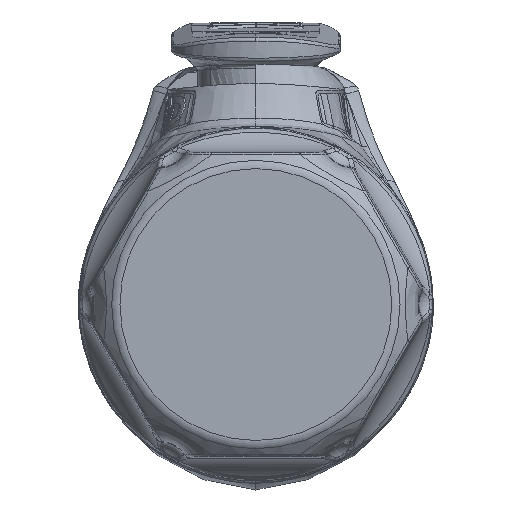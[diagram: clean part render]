
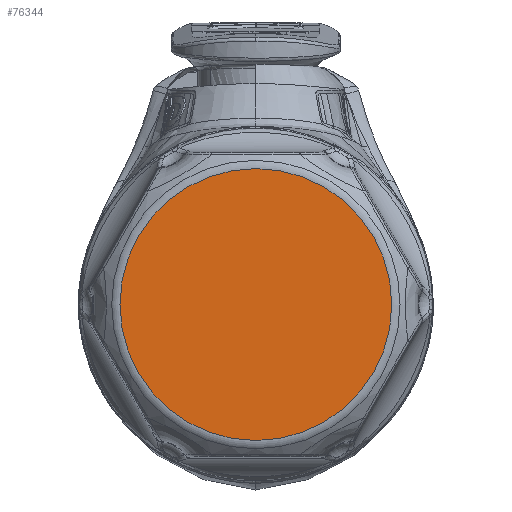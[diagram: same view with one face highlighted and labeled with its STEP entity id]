
A CAD part, front view. The second image highlights one B-rep face of the part: STEP entity #76344.
In plain terms, the highlighted planar face has unit normal (0, -1, 0).
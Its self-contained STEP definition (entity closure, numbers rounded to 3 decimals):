
#1261 = VERTEX_POINT ( 'NONE', #23498 ) ;
#2103 = EDGE_LOOP ( 'NONE', ( #81946 ) ) ;
#5241 = DIRECTION ( 'NONE',  ( 0., -1., 0. ) ) ;
#6407 = FACE_OUTER_BOUND ( 'NONE', #2103, .T. ) ;
#11394 = EDGE_CURVE ( 'NONE', #1261, #1261, #14669, .T. ) ;
#14669 = CIRCLE ( 'NONE', #53218, 11.016 ) ;
#20752 = CARTESIAN_POINT ( 'NONE',  ( 0., -58.7, 0. ) ) ;
#23498 = CARTESIAN_POINT ( 'NONE',  ( 11.016, -58.7, 0. ) ) ;
#40934 = CARTESIAN_POINT ( 'NONE',  ( 0., -58.7, 0. ) ) ;
#53218 = AXIS2_PLACEMENT_3D ( 'NONE', #40934, #5241, #68322 ) ;
#57379 = PLANE ( 'NONE',  #84780 ) ;
#63439 = DIRECTION ( 'NONE',  ( 0., -1., 0. ) ) ;
#68322 = DIRECTION ( 'NONE',  ( 1., 0., 0. ) ) ;
#76344 = ADVANCED_FACE ( 'NONE', ( #6407 ), #57379, .T. ) ;
#81946 = ORIENTED_EDGE ( 'NONE', *, *, #11394, .T. ) ;
#84777 = DIRECTION ( 'NONE',  ( 0., 0., -1. ) ) ;
#84780 = AXIS2_PLACEMENT_3D ( 'NONE', #20752, #63439, #84777 ) ;
